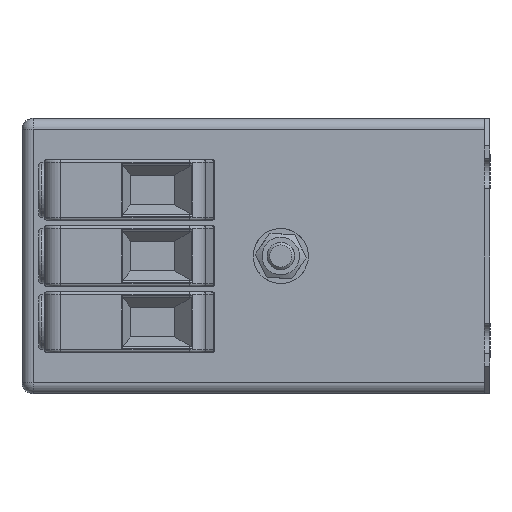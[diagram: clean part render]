
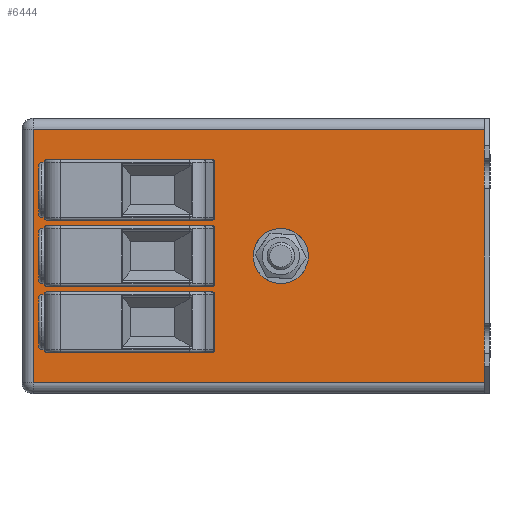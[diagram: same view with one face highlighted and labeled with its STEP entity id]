
A CAD part, left-side view. The second image highlights one B-rep face of the part: STEP entity #6444.
In plain terms, the highlighted planar face has unit normal (-1, 0, 0).
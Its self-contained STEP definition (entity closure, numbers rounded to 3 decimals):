
#576=CARTESIAN_POINT('',(-120.0,-4.5,-20.75));
#577=VERTEX_POINT('',#576);
#578=CARTESIAN_POINT('',(-120.0,-4.5,-25.));
#579=DIRECTION('',(1.0,0.0,0.0));
#580=DIRECTION('',(0.0,0.0,1.0));
#581=AXIS2_PLACEMENT_3D('',#578,#579,#580);
#582=CIRCLE('',#581,4.25);
#583=EDGE_CURVE('',#577,#577,#582,.T.);
#793=CARTESIAN_POINT('',(-120.,-41.5,-2.0));
#794=VERTEX_POINT('',#793);
#812=CARTESIAN_POINT('',(-120.0,40.5,-2.0));
#813=VERTEX_POINT('',#812);
#821=CARTESIAN_POINT('',(-120.0,40.5,-2.0));
#822=DIRECTION('',(0.0,-1.0,0.0));
#823=VECTOR('',#822,82.0);
#824=LINE('',#821,#823);
#825=EDGE_CURVE('',#813,#794,#824,.T.);
#931=CARTESIAN_POINT('',(-120.0,40.5,-48.0));
#932=VERTEX_POINT('',#931);
#964=CARTESIAN_POINT('',(-120.,-41.5,-48.0));
#965=VERTEX_POINT('',#964);
#973=CARTESIAN_POINT('',(-120.,-41.5,-48.0));
#974=DIRECTION('',(0.0,1.0,0.0));
#975=VECTOR('',#974,82.0);
#976=LINE('',#973,#975);
#977=EDGE_CURVE('',#965,#932,#976,.T.);
#1014=CARTESIAN_POINT('',(-120.0,40.5,-48.0));
#1015=DIRECTION('',(0.0,0.0,1.0));
#1016=VECTOR('',#1015,46.0);
#1017=LINE('',#1014,#1016);
#1018=EDGE_CURVE('',#932,#813,#1017,.T.);
#1654=CARTESIAN_POINT('',(-120.,-41.5,-48.0));
#1655=DIRECTION('',(0.0,0.0,1.0));
#1656=VECTOR('',#1655,46.0);
#1657=LINE('',#1654,#1656);
#1658=EDGE_CURVE('',#965,#794,#1657,.T.);
#3202=CARTESIAN_POINT('',(-120.,8.,-8.));
#3203=VERTEX_POINT('',#3202);
#3226=CARTESIAN_POINT('',(-120.,38.,-8.));
#3227=VERTEX_POINT('',#3226);
#3262=CARTESIAN_POINT('',(-120.,38.,-8.));
#3263=DIRECTION('',(0.0,-1.0,0.0));
#3264=VECTOR('',#3263,30.);
#3265=LINE('',#3262,#3264);
#3266=EDGE_CURVE('',#3227,#3203,#3265,.T.);
#3507=CARTESIAN_POINT('',(-120.,38.,-18.));
#3508=VERTEX_POINT('',#3507);
#3518=CARTESIAN_POINT('',(-120.0,38.,-18.));
#3519=DIRECTION('',(0.0,0.0,1.0));
#3520=VECTOR('',#3519,10.0);
#3521=LINE('',#3518,#3520);
#3522=EDGE_CURVE('',#3508,#3227,#3521,.T.);
#3532=CARTESIAN_POINT('',(-120.,8.,-18.));
#3533=VERTEX_POINT('',#3532);
#3543=CARTESIAN_POINT('',(-120.0,8.,-18.));
#3544=DIRECTION('',(0.0,0.0,1.0));
#3545=VECTOR('',#3544,10.0);
#3546=LINE('',#3543,#3545);
#3547=EDGE_CURVE('',#3533,#3203,#3546,.T.);
#3751=CARTESIAN_POINT('',(-120.0,8.,-18.));
#3752=DIRECTION('',(0.0,1.0,0.0));
#3753=VECTOR('',#3752,30.);
#3754=LINE('',#3751,#3753);
#3755=EDGE_CURVE('',#3533,#3508,#3754,.T.);
#5271=CARTESIAN_POINT('',(-120.,8.,-20.));
#5272=VERTEX_POINT('',#5271);
#5295=CARTESIAN_POINT('',(-120.,38.,-20.));
#5296=VERTEX_POINT('',#5295);
#5331=CARTESIAN_POINT('',(-120.,38.,-20.));
#5332=DIRECTION('',(0.0,-1.0,0.0));
#5333=VECTOR('',#5332,30.);
#5334=LINE('',#5331,#5333);
#5335=EDGE_CURVE('',#5296,#5272,#5334,.T.);
#5576=CARTESIAN_POINT('',(-120.,38.,-30.));
#5577=VERTEX_POINT('',#5576);
#5587=CARTESIAN_POINT('',(-120.0,38.,-30.));
#5588=DIRECTION('',(0.0,0.0,1.0));
#5589=VECTOR('',#5588,10.0);
#5590=LINE('',#5587,#5589);
#5591=EDGE_CURVE('',#5577,#5296,#5590,.T.);
#5601=CARTESIAN_POINT('',(-120.,8.,-30.));
#5602=VERTEX_POINT('',#5601);
#5612=CARTESIAN_POINT('',(-120.0,8.,-30.));
#5613=DIRECTION('',(0.0,0.0,1.0));
#5614=VECTOR('',#5613,10.0);
#5615=LINE('',#5612,#5614);
#5616=EDGE_CURVE('',#5602,#5272,#5615,.T.);
#5820=CARTESIAN_POINT('',(-120.0,8.,-30.));
#5821=DIRECTION('',(0.0,1.0,0.0));
#5822=VECTOR('',#5821,30.);
#5823=LINE('',#5820,#5822);
#5824=EDGE_CURVE('',#5602,#5577,#5823,.T.);
#6384=CARTESIAN_POINT('',(-120.0,42.5,0.0));
#6385=DIRECTION('',(-1.0,0.0,0.0));
#6386=DIRECTION('',(0.0,0.0,1.0));
#6387=AXIS2_PLACEMENT_3D('',#6384,#6385,#6386);
#6388=PLANE('',#6387);
#6389=ORIENTED_EDGE('',*,*,#825,.F.);
#6390=ORIENTED_EDGE('',*,*,#1018,.F.);
#6391=ORIENTED_EDGE('',*,*,#977,.F.);
#6392=ORIENTED_EDGE('',*,*,#1658,.T.);
#6393=EDGE_LOOP('',(#6389,#6390,#6391,#6392));
#6394=FACE_OUTER_BOUND('',#6393,.T.);
#6395=CARTESIAN_POINT('',(-120.,8.,-42.));
#6396=VERTEX_POINT('',#6395);
#6397=CARTESIAN_POINT('',(-120.,38.,-42.));
#6398=VERTEX_POINT('',#6397);
#6399=CARTESIAN_POINT('',(-120.0,8.,-42.));
#6400=DIRECTION('',(0.0,1.0,0.0));
#6401=VECTOR('',#6400,30.);
#6402=LINE('',#6399,#6401);
#6403=EDGE_CURVE('',#6396,#6398,#6402,.T.);
#6404=ORIENTED_EDGE('',*,*,#6403,.T.);
#6405=CARTESIAN_POINT('',(-120.,38.,-32.));
#6406=VERTEX_POINT('',#6405);
#6407=CARTESIAN_POINT('',(-120.0,38.,-42.));
#6408=DIRECTION('',(0.0,0.0,1.0));
#6409=VECTOR('',#6408,10.);
#6410=LINE('',#6407,#6409);
#6411=EDGE_CURVE('',#6398,#6406,#6410,.T.);
#6412=ORIENTED_EDGE('',*,*,#6411,.T.);
#6413=CARTESIAN_POINT('',(-120.,8.,-32.));
#6414=VERTEX_POINT('',#6413);
#6415=CARTESIAN_POINT('',(-120.,38.,-32.));
#6416=DIRECTION('',(0.0,-1.0,0.0));
#6417=VECTOR('',#6416,30.);
#6418=LINE('',#6415,#6417);
#6419=EDGE_CURVE('',#6406,#6414,#6418,.T.);
#6420=ORIENTED_EDGE('',*,*,#6419,.T.);
#6421=CARTESIAN_POINT('',(-120.0,8.,-42.));
#6422=DIRECTION('',(0.0,0.0,1.0));
#6423=VECTOR('',#6422,10.);
#6424=LINE('',#6421,#6423);
#6425=EDGE_CURVE('',#6396,#6414,#6424,.T.);
#6426=ORIENTED_EDGE('',*,*,#6425,.F.);
#6427=EDGE_LOOP('',(#6404,#6412,#6420,#6426));
#6428=FACE_BOUND('',#6427,.T.);
#6429=ORIENTED_EDGE('',*,*,#5824,.T.);
#6430=ORIENTED_EDGE('',*,*,#5591,.T.);
#6431=ORIENTED_EDGE('',*,*,#5335,.T.);
#6432=ORIENTED_EDGE('',*,*,#5616,.F.);
#6433=EDGE_LOOP('',(#6429,#6430,#6431,#6432));
#6434=FACE_BOUND('',#6433,.T.);
#6435=ORIENTED_EDGE('',*,*,#3755,.T.);
#6436=ORIENTED_EDGE('',*,*,#3522,.T.);
#6437=ORIENTED_EDGE('',*,*,#3266,.T.);
#6438=ORIENTED_EDGE('',*,*,#3547,.F.);
#6439=EDGE_LOOP('',(#6435,#6436,#6437,#6438));
#6440=FACE_BOUND('',#6439,.T.);
#6441=ORIENTED_EDGE('',*,*,#583,.T.);
#6442=EDGE_LOOP('',(#6441));
#6443=FACE_BOUND('',#6442,.T.);
#6444=ADVANCED_FACE('',(#6394,#6428,#6434,#6440,#6443),#6388,.T.);
